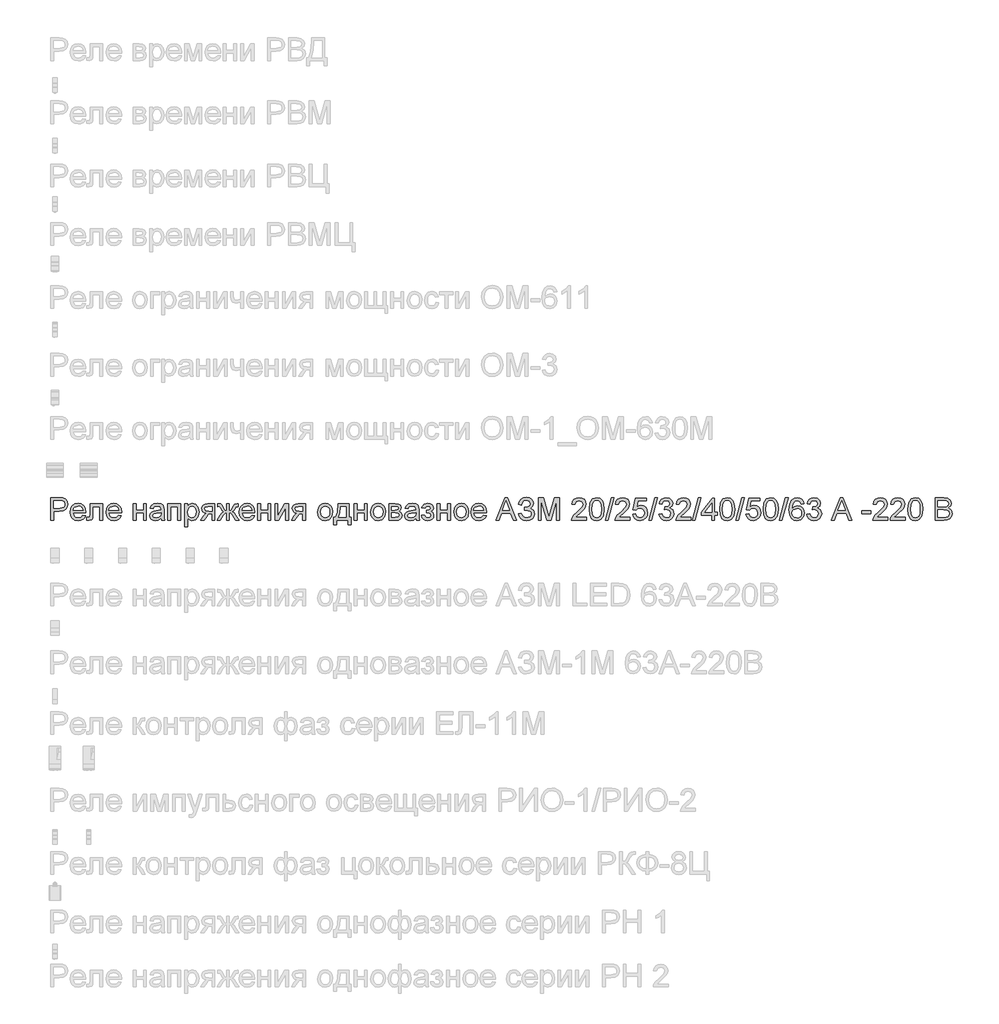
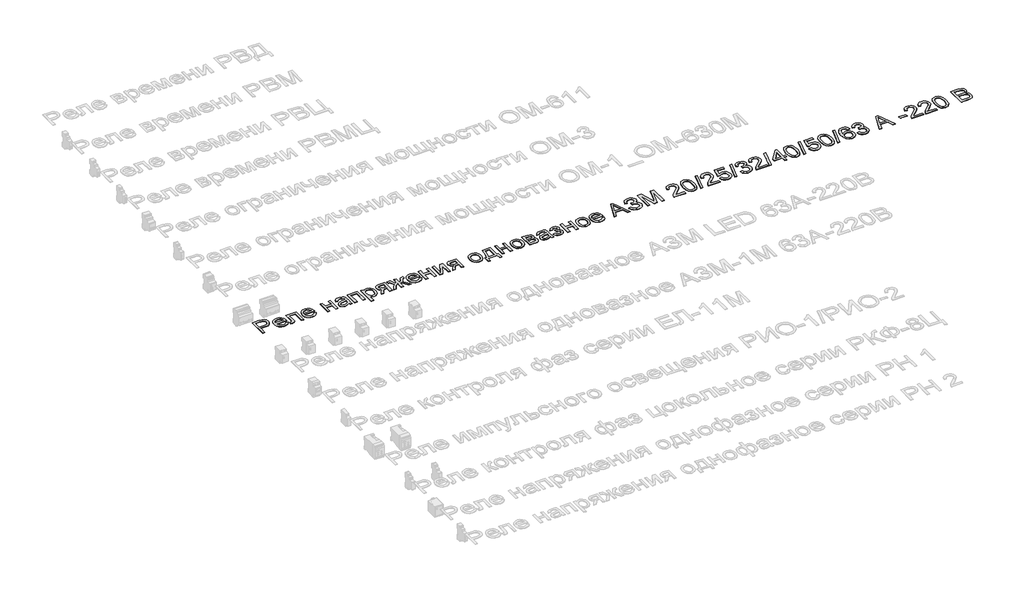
# One storey, part 18 of 34: 1 proxy.
"""IFC4 building model written with IfcOpenShell, lengths in millimetres."""

from ifc_helpers import new_model, si_unit, frame, origin, place, context, project, spatial, polyline, outline, extrude, element, save

model = new_model("IFC4")

# Units and contexts
model_context = context("Model", 3, world=origin())
ifc_project = project(units=[si_unit("LENGTHUNIT", "METRE", prefix="MILLI")], contexts=[model_context])

# Site, building, storey
site = spatial("IfcSite", under=ifc_project)
building = spatial("IfcBuilding", under=site)
storey = spatial("IfcBuildingStorey", under=building, Name="Этаж 01", Elevation=0.0)

# Proxy
placement = place(None, origin())
element("IfcBuildingElementProxy", 1, Name="Надпись на модели 1", ObjectType="Надпись на модели 1", at=placement, inside=storey, context=model_context, shape_type="SweptSolid", body=[
    extrude(outline(polyline([(-19039.0125911, 12276.235284), (-19039.0125911, 12376.6915941), (-19001.7829332, 12376.6915941), (-18986.7733478, 12375.735101), (-18974.5719283, 12371.0384742), (-18966.6624654, 12361.3263895), (-18963.6703585, 12347.6289165), (-18965.6906438, 12335.7892476), (-18971.7514996, 12325.9238788), (-18983.0853308, 12319.2652147), (-19000.9245418, 12317.04566), (-19026.4555523, 12317.04566), (-19026.4555523, 12276.235284), (-19039.0125911, 12276.235284)]), holes=[polyline([(-19026.4555523, 12329.6026988), (-19000.1887779, 12329.6026988), (-18981.6965762, 12334.2134864), (-18977.594692, 12339.7623732), (-18976.2273972, 12347.1874581), (-18979.4524961, 12357.5862559), (-18987.9260447, 12363.2761641), (-19000.4830834, 12364.1345554), (-19026.4555523, 12364.1345554), (-19026.4555523, 12329.6026988)])]), frame((0.0, 0.0, 40.0), z_axis=(0.0, 0.0, 1.0), x_axis=(1.0, 0.0, 0.0)), (0.0, 0.0, 1.0), 2.0),
    extrude(outline(polyline([(-18896.3234279, 12298.2101018), (-18884.0116438, 12296.640472), (-18888.4476875, 12287.3637143), (-18895.5263502, 12280.4291387), (-18905.0882164, 12276.1065253), (-18916.9738705, 12274.6656541), (-18931.7075445, 12277.1519233), (-18943.0444413, 12284.6107308), (-18950.2733225, 12296.5576985), (-18952.6829495, 12312.5084487), (-18950.248797, 12328.9956935), (-18942.9463394, 12341.3258717), (-18931.7627268, 12349.0146054), (-18917.6851091, 12351.5775166), (-18904.0458841, 12349.0207367), (-18893.14738, 12341.3503971), (-18886.0012722, 12329.0447444), (-18883.6192363, 12312.5820251), (-18883.6928127, 12309.1975108), (-18940.1259108, 12309.1975108), (-18937.9523413, 12299.7981258), (-18932.9031609, 12292.8880756), (-18925.6160317, 12288.6390386), (-18916.7286159, 12287.2226929), (-18904.4168318, 12289.8469178), (-18896.3234279, 12298.2101018)]), holes=[polyline([(-18940.1259108, 12321.7545495), (-18896.1762751, 12321.7545495), (-18901.2039957, 12333.1343659), (-18908.5248474, 12337.5489499), (-18917.73416, 12339.0204778), (-18933.1974665, 12334.323851), (-18938.0627059, 12328.8332123), (-18940.1259108, 12321.7545495)])]), frame((0.0, 0.0, 40.0), z_axis=(0.0, 0.0, 1.0), x_axis=(1.0, 0.0, 0.0)), (0.0, 0.0, 1.0), 2.0),
    extrude(outline(polyline([(-18864.7836782, 12350.0078868), (-18808.2770037, 12350.0078868), (-18808.2770037, 12276.3088604), (-18820.8340425, 12276.3088604), (-18820.8340425, 12337.450848), (-18852.2266394, 12337.450848), (-18852.2266394, 12302.2568038), (-18853.072768, 12286.0209451), (-18857.7203439, 12279.1660772), (-18868.7077528, 12276.235284), (-18878.9103468, 12276.8729461), (-18878.9103468, 12288.7923228), (-18873.294015, 12288.7923228), (-18867.6163695, 12289.564875), (-18865.3477639, 12292.0174216), (-18864.7836782, 12302.9680423), (-18864.7836782, 12350.0078868)])), frame((0.0, 0.0, 40.0), z_axis=(0.0, 0.0, 1.0), x_axis=(1.0, 0.0, 0.0)), (0.0, 0.0, 1.0), 2.0),
    extrude(outline(polyline([(-18737.7908134, 12298.2101018), (-18725.4790293, 12296.640472), (-18729.915073, 12287.3637143), (-18736.9937358, 12280.4291387), (-18746.555602, 12276.1065253), (-18758.4412561, 12274.6656541), (-18773.17493, 12277.1519233), (-18784.5118268, 12284.6107308), (-18791.740708, 12296.5576985), (-18794.1503351, 12312.5084487), (-18791.7161826, 12328.9956935), (-18784.4137249, 12341.3258717), (-18773.2301123, 12349.0146054), (-18759.1524946, 12351.5775166), (-18745.5132696, 12349.0207367), (-18734.6147655, 12341.3503971), (-18727.4686578, 12329.0447444), (-18725.0866219, 12312.5820251), (-18725.1601983, 12309.1975108), (-18781.5932963, 12309.1975108), (-18779.4197269, 12299.7981258), (-18774.3705465, 12292.8880756), (-18767.0834173, 12288.6390386), (-18758.1960014, 12287.2226929), (-18745.8842173, 12289.8469178), (-18737.7908134, 12298.2101018)]), holes=[polyline([(-18781.5932963, 12321.7545495), (-18737.6436606, 12321.7545495), (-18742.6713812, 12333.1343659), (-18749.9922329, 12337.5489499), (-18759.2015455, 12339.0204778), (-18774.6648521, 12334.323851), (-18779.5300915, 12328.8332123), (-18781.5932963, 12321.7545495)])]), frame((0.0, 0.0, 40.0), z_axis=(0.0, 0.0, 1.0), x_axis=(1.0, 0.0, 0.0)), (0.0, 0.0, 1.0), 2.0),
    extrude(outline(polyline([(-18673.2888369, 12350.0078868), (-18660.7317982, 12350.0078868), (-18660.7317982, 12321.7545495), (-18627.7695714, 12321.7545495), (-18627.7695714, 12350.0078868), (-18615.2125326, 12350.0078868), (-18615.2125326, 12276.235284), (-18627.7695714, 12276.235284), (-18627.7695714, 12309.1975108), (-18660.7317982, 12309.1975108), (-18660.7317982, 12276.235284), (-18673.2888369, 12276.235284), (-18673.2888369, 12350.0078868)])), frame((0.0, 0.0, 40.0), z_axis=(0.0, 0.0, 1.0), x_axis=(1.0, 0.0, 0.0)), (0.0, 0.0, 1.0), 2.0),
    extrude(outline(polyline([(-18549.2880791, 12285.6530631), (-18561.4649731, 12277.1427262), (-18574.9171914, 12274.6656541), (-18585.4110253, 12276.1555762), (-18593.1518757, 12280.6253425), (-18597.9251445, 12287.4127653), (-18599.5162342, 12295.8556571), (-18597.1127385, 12305.7884709), (-18590.7974309, 12312.998958), (-18582.0050512, 12317.1192364), (-18571.1402696, 12319.0076973), (-18549.3616555, 12323.3241794), (-18549.2880791, 12326.1200825), (-18552.7461699, 12335.3907088), (-18566.6275838, 12339.0204778), (-18579.3317754, 12336.6047194), (-18585.3895656, 12328.0330689), (-18597.9466043, 12329.6026988), (-18592.5142135, 12341.8654319), (-18581.5758555, 12349.0513936), (-18565.008903, 12351.5775166), (-18549.7908512, 12349.3456992), (-18541.1946752, 12343.7416301), (-18537.344177, 12335.2190306), (-18536.7310403, 12324.2316216), (-18536.7310403, 12308.6088996), (-18536.0933782, 12286.7934973), (-18533.5917806, 12276.235284), (-18546.1488194, 12276.235284), (-18549.2880791, 12285.6530631)]), holes=[polyline([(-18549.2880791, 12310.7671406), (-18569.5461143, 12306.9166424), (-18580.3495822, 12304.8810287), (-18585.2424128, 12301.5700907), (-18586.9591954, 12296.7385739), (-18583.2190618, 12289.9450197), (-18572.2439156, 12287.2226929), (-18559.539724, 12290.2270625), (-18551.3482183, 12297.4988633), (-18549.3616555, 12307.210948), (-18549.2880791, 12310.7671406)])]), frame((0.0, 0.0, 40.0), z_axis=(0.0, 0.0, 1.0), x_axis=(1.0, 0.0, 0.0)), (0.0, 0.0, 1.0), 2.0),
    extrude(outline(polyline([(-18519.465112, 12350.0078868), (-18462.9584376, 12350.0078868), (-18462.9584376, 12276.235284), (-18475.5154763, 12276.235284), (-18475.5154763, 12337.450848), (-18506.9080733, 12337.450848), (-18506.9080733, 12276.235284), (-18519.465112, 12276.235284), (-18519.465112, 12350.0078868)])), frame((0.0, 0.0, 40.0), z_axis=(0.0, 0.0, 1.0), x_axis=(1.0, 0.0, 0.0)), (0.0, 0.0, 1.0), 2.0),
    extrude(outline(polyline([(-18444.1228794, 12247.9819468), (-18444.1228794, 12350.0078868), (-18431.5658406, 12350.0078868), (-18431.5658406, 12337.6961027), (-18422.8838256, 12348.1071631), (-18411.1606526, 12351.5775166), (-18395.243625, 12346.7214743), (-18384.8448273, 12333.036264), (-18381.3376856, 12313.6856711), (-18385.2985484, 12293.3417968), (-18396.8009921, 12279.4849083), (-18412.6812316, 12274.6656541), (-18423.6073268, 12277.890753), (-18431.5658406, 12286.0454705), (-18431.5658406, 12247.9819468), (-18444.1228794, 12247.9819468)]), holes=[polyline([(-18431.5658406, 12312.5329742), (-18430.2077429, 12301.2757851), (-18426.1334498, 12293.4031104), (-18420.1216449, 12288.7677973), (-18412.9510117, 12287.2226929), (-18405.6638825, 12288.8229796), (-18399.4987934, 12293.6238396), (-18395.2957416, 12301.7846886), (-18393.8947243, 12313.4649419), (-18395.2620191, 12324.6608173), (-18399.3639033, 12332.6438566), (-18405.3665112, 12337.4263225), (-18412.4359769, 12339.0204778), (-18419.5330337, 12337.325155), (-18425.7655679, 12332.2391864), (-18430.1157724, 12323.9219876), (-18431.5658406, 12312.5329742)])]), frame((0.0, 0.0, 40.0), z_axis=(0.0, 0.0, 1.0), x_axis=(1.0, 0.0, 0.0)), (0.0, 0.0, 1.0), 2.0),
    extrude(outline(polyline([(-18310.7043425, 12350.0078868), (-18310.7043425, 12276.235284), (-18323.2613813, 12276.235284), (-18323.2613813, 12304.4886212), (-18330.1039864, 12304.4886212), (-18339.4236636, 12302.8944659), (-18348.1792551, 12292.1768371), (-18358.1856453, 12276.235284), (-18372.7047214, 12276.235284), (-18360.0986317, 12296.3952173), (-18349.4055284, 12306.843066), (-18357.9894416, 12309.4734223), (-18364.0227063, 12314.470486), (-18368.7806468, 12328.6952565), (-18367.1558347, 12337.2914325), (-18362.2813982, 12344.0972494), (-18354.3290158, 12348.5302274), (-18343.4703655, 12350.0078868), (-18310.7043425, 12350.0078868)]), holes=[polyline([(-18323.2613813, 12337.450848), (-18339.816071, 12337.450848), (-18353.2192384, 12334.5445802), (-18356.223608, 12327.7387633), (-18351.7967614, 12319.6330967), (-18336.1127256, 12317.04566), (-18323.2613813, 12317.04566), (-18323.2613813, 12337.450848)])]), frame((0.0, 0.0, 40.0), z_axis=(0.0, 0.0, 1.0), x_axis=(1.0, 0.0, 0.0)), (0.0, 0.0, 1.0), 2.0),
    extrude(outline(polyline([(-18246.3495188, 12350.0078868), (-18246.3495188, 12318.6152898), (-18239.0286671, 12321.2027265), (-18232.1002229, 12334.6304194), (-18223.8351407, 12347.5062892), (-18212.0874423, 12350.0078868), (-18207.1087727, 12350.0078868), (-18207.1087727, 12337.3772716), (-18210.5668634, 12337.450848), (-18217.0415865, 12336.1509983), (-18221.5297469, 12328.0085434), (-18226.7414085, 12319.0812737), (-18234.1848875, 12314.5440624), (-18225.9749876, 12309.6573633), (-18217.9735542, 12299.3627988), (-18203.969513, 12276.235284), (-18218.3659617, 12276.235284), (-18232.1492738, 12299.0439677), (-18239.1758199, 12308.5230604), (-18246.3495188, 12310.7671406), (-18246.3495188, 12276.235284), (-18258.9065576, 12276.235284), (-18258.9065576, 12310.7671406), (-18266.055731, 12308.5721114), (-18273.1313281, 12299.0930186), (-18286.9146401, 12276.235284), (-18301.2865634, 12276.235284), (-18287.3315731, 12299.3627988), (-18279.268826, 12309.6573633), (-18271.0221379, 12314.5440624), (-18278.9193381, 12319.5472576), (-18285.6883668, 12332.4231274), (-18288.9993048, 12336.6660331), (-18294.4194328, 12337.5244244), (-18298.1473037, 12337.450848), (-18298.1473037, 12350.0078868), (-18296.2588428, 12350.0078868), (-18285.2469084, 12349.2230718), (-18279.5324748, 12345.8876084), (-18273.1313281, 12334.6304194), (-18266.2764602, 12321.2885657), (-18258.9065576, 12318.6152898), (-18258.9065576, 12350.0078868), (-18246.3495188, 12350.0078868)])), frame((0.0, 0.0, 40.0), z_axis=(0.0, 0.0, 1.0), x_axis=(1.0, 0.0, 0.0)), (0.0, 0.0, 1.0), 2.0),
    extrude(outline(polyline([(-18146.0403615, 12298.2101018), (-18133.7285773, 12296.640472), (-18138.1646211, 12287.3637143), (-18145.2432838, 12280.4291387), (-18154.80515, 12276.1065253), (-18166.6908041, 12274.6656541), (-18181.424478, 12277.1519233), (-18192.7613748, 12284.6107308), (-18199.990256, 12296.5576985), (-18202.3998831, 12312.5084487), (-18199.9657306, 12328.9956935), (-18192.663273, 12341.3258717), (-18181.4796603, 12349.0146054), (-18167.4020426, 12351.5775166), (-18153.7628177, 12349.0207367), (-18142.8643136, 12341.3503971), (-18135.7182058, 12329.0447444), (-18133.3361699, 12312.5820251), (-18133.4097463, 12309.1975108), (-18189.8428443, 12309.1975108), (-18187.6692749, 12299.7981258), (-18182.6200945, 12292.8880756), (-18175.3329653, 12288.6390386), (-18166.4455495, 12287.2226929), (-18154.1337653, 12289.8469178), (-18146.0403615, 12298.2101018)]), holes=[polyline([(-18189.8428443, 12321.7545495), (-18145.8932087, 12321.7545495), (-18150.9209293, 12333.1343659), (-18158.241781, 12337.5489499), (-18167.4510936, 12339.0204778), (-18182.9144001, 12334.323851), (-18187.7796395, 12328.8332123), (-18189.8428443, 12321.7545495)])]), frame((0.0, 0.0, 40.0), z_axis=(0.0, 0.0, 1.0), x_axis=(1.0, 0.0, 0.0)), (0.0, 0.0, 1.0), 2.0),
    extrude(outline(polyline([(-18120.7791311, 12350.0078868), (-18108.2220923, 12350.0078868), (-18108.2220923, 12321.7545495), (-18075.2598656, 12321.7545495), (-18075.2598656, 12350.0078868), (-18062.7028268, 12350.0078868), (-18062.7028268, 12276.235284), (-18075.2598656, 12276.235284), (-18075.2598656, 12309.1975108), (-18108.2220923, 12309.1975108), (-18108.2220923, 12276.235284), (-18120.7791311, 12276.235284), (-18120.7791311, 12350.0078868)])), frame((0.0, 0.0, 40.0), z_axis=(0.0, 0.0, 1.0), x_axis=(1.0, 0.0, 0.0)), (0.0, 0.0, 1.0), 2.0),
    extrude(outline(polyline([(-18043.8672687, 12350.0078868), (-18031.3102299, 12350.0078868), (-18031.3102299, 12293.746467), (-18000.4571932, 12350.0078868), (-17984.2213345, 12350.0078868), (-17984.2213345, 12276.235284), (-17996.7783733, 12276.235284), (-17996.7783733, 12332.1533473), (-18027.4352062, 12276.235284), (-18043.8672687, 12276.235284), (-18043.8672687, 12350.0078868)])), frame((0.0, 0.0, 40.0), z_axis=(0.0, 0.0, 1.0), x_axis=(1.0, 0.0, 0.0)), (0.0, 0.0, 1.0), 2.0),
    extrude(outline(polyline([(-17908.8791019, 12350.0078868), (-17908.8791019, 12276.235284), (-17921.4361407, 12276.235284), (-17921.4361407, 12304.4886212), (-17928.2787458, 12304.4886212), (-17937.598423, 12302.8944659), (-17946.3540145, 12292.1768371), (-17956.3604047, 12276.235284), (-17970.8794808, 12276.235284), (-17958.2733911, 12296.3952173), (-17947.5802878, 12306.843066), (-17956.164201, 12309.4734223), (-17962.1974657, 12314.470486), (-17966.9554062, 12328.6952565), (-17965.3305941, 12337.2914325), (-17960.4561576, 12344.0972494), (-17952.5037752, 12348.5302274), (-17941.6451249, 12350.0078868), (-17908.8791019, 12350.0078868)]), holes=[polyline([(-17921.4361407, 12337.450848), (-17937.9908304, 12337.450848), (-17951.3939978, 12334.5445802), (-17954.3983674, 12327.7387633), (-17949.9715208, 12319.6330967), (-17934.287485, 12317.04566), (-17921.4361407, 12317.04566), (-17921.4361407, 12337.450848)])]), frame((0.0, 0.0, 40.0), z_axis=(0.0, 0.0, 1.0), x_axis=(1.0, 0.0, 0.0)), (0.0, 0.0, 1.0), 2.0),
    extrude(outline(polyline([(-17853.9420573, 12313.1215854), (-17851.2258619, 12330.9086798), (-17843.0772757, 12343.4105363), (-17833.0095718, 12349.5357715), (-17820.955305, 12351.5775166), (-17807.7636698, 12349.0912475), (-17797.2269164, 12341.63244), (-17790.3199319, 12329.7897054), (-17788.0176037, 12314.151655), (-17792.0888312, 12291.8089551), (-17803.9468941, 12279.1660772), (-17820.955305, 12274.6656541), (-17834.3063558, 12277.1427262), (-17844.8308465, 12284.5739426), (-17851.6642546, 12296.6649975), (-17853.9420573, 12313.1215854)]), holes=[polyline([(-17841.3850185, 12313.1461108), (-17839.9318846, 12301.7816229), (-17835.572483, 12293.6851533), (-17829.0119207, 12288.838308), (-17820.955305, 12287.2226929), (-17812.9354776, 12288.8475051), (-17806.387178, 12293.7219415), (-17802.0277764, 12301.92571), (-17800.5746425, 12313.5385183), (-17802.0369734, 12324.5719125), (-17806.4239662, 12332.5580175), (-17812.9814628, 12337.4048627), (-17820.955305, 12339.0204778), (-17829.0119207, 12337.4109941), (-17835.572483, 12332.5825429), (-17839.9318846, 12324.5044674), (-17841.3850185, 12313.1461108)])]), frame((0.0, 0.0, 40.0), z_axis=(0.0, 0.0, 1.0), x_axis=(1.0, 0.0, 0.0)), (0.0, 0.0, 1.0), 2.0),
    extrude(outline(polyline([(-17762.9035262, 12350.0078868), (-17715.8146308, 12350.0078868), (-17715.8146308, 12288.7923228), (-17706.3968517, 12288.7923228), (-17706.3968517, 12255.830096), (-17718.9538905, 12255.830096), (-17718.9538905, 12276.235284), (-17770.7516754, 12276.235284), (-17770.7516754, 12255.830096), (-17783.3087142, 12255.830096), (-17783.3087142, 12288.7923228), (-17775.460565, 12288.7923228), (-17765.760743, 12312.7414406), (-17762.9035262, 12350.0078868)]), holes=[polyline([(-17751.9161173, 12337.450848), (-17754.8591732, 12308.8418915), (-17761.3338964, 12288.7923228), (-17728.3716696, 12288.7923228), (-17728.3716696, 12337.450848), (-17751.9161173, 12337.450848)])]), frame((0.0, 0.0, 40.0), z_axis=(0.0, 0.0, 1.0), x_axis=(1.0, 0.0, 0.0)), (0.0, 0.0, 1.0), 2.0),
    extrude(outline(polyline([(-17692.2701831, 12350.0078868), (-17679.7131444, 12350.0078868), (-17679.7131444, 12321.7545495), (-17646.7509176, 12321.7545495), (-17646.7509176, 12350.0078868), (-17634.1938788, 12350.0078868), (-17634.1938788, 12276.235284), (-17646.7509176, 12276.235284), (-17646.7509176, 12309.1975108), (-17679.7131444, 12309.1975108), (-17679.7131444, 12276.235284), (-17692.2701831, 12276.235284), (-17692.2701831, 12350.0078868)])), frame((0.0, 0.0, 40.0), z_axis=(0.0, 0.0, 1.0), x_axis=(1.0, 0.0, 0.0)), (0.0, 0.0, 1.0), 2.0),
    extrude(outline(polyline([(-17618.4975804, 12313.1215854), (-17615.781385, 12330.9086798), (-17607.6327988, 12343.4105363), (-17597.5650948, 12349.5357715), (-17585.5108281, 12351.5775166), (-17572.3191929, 12349.0912475), (-17561.7824394, 12341.63244), (-17554.875455, 12329.7897054), (-17552.5731268, 12314.151655), (-17556.6443542, 12291.8089551), (-17568.5024172, 12279.1660772), (-17585.5108281, 12274.6656541), (-17598.8618789, 12277.1427262), (-17609.3863696, 12284.5739426), (-17616.2197777, 12296.6649975), (-17618.4975804, 12313.1215854)]), holes=[polyline([(-17605.9405416, 12313.1461108), (-17604.4874077, 12301.7816229), (-17600.1280061, 12293.6851533), (-17593.5674438, 12288.838308), (-17585.5108281, 12287.2226929), (-17577.4910006, 12288.8475051), (-17570.9427011, 12293.7219415), (-17566.5832995, 12301.92571), (-17565.1301656, 12313.5385183), (-17566.5924965, 12324.5719125), (-17570.9794893, 12332.5580175), (-17577.5369859, 12337.4048627), (-17585.5108281, 12339.0204778), (-17593.5674438, 12337.4109941), (-17600.1280061, 12332.5825429), (-17604.4874077, 12324.5044674), (-17605.9405416, 12313.1461108)])]), frame((0.0, 0.0, 40.0), z_axis=(0.0, 0.0, 1.0), x_axis=(1.0, 0.0, 0.0)), (0.0, 0.0, 1.0), 2.0),
    extrude(outline(polyline([(-17538.4464582, 12350.0078868), (-17510.7817322, 12350.0078868), (-17495.6127312, 12348.3278923), (-17487.077869, 12342.1720003), (-17483.5094136, 12331.4421087), (-17485.6676546, 12322.7233055), (-17492.1669032, 12316.5060997), (-17483.7301428, 12309.7002828), (-17480.3701539, 12297.8667453), (-17482.4977381, 12288.2956821), (-17487.5561156, 12281.5573102), (-17495.5636803, 12277.5657905), (-17506.5388265, 12276.235284), (-17538.4464582, 12276.235284), (-17538.4464582, 12350.0078868)]), holes=[polyline([(-17525.8894194, 12321.7545495), (-17513.4795335, 12321.7545495), (-17503.2401513, 12322.3922117), (-17498.2614816, 12324.9428602), (-17496.0664524, 12329.5536478), (-17499.9169506, 12335.7095399), (-17513.087126, 12337.450848), (-17525.8894194, 12337.450848), (-17525.8894194, 12321.7545495)]), polyline([(-17525.8894194, 12288.7923228), (-17510.4874266, 12288.7923228), (-17496.8267418, 12291.0609284), (-17492.9271927, 12298.8968149), (-17495.073171, 12304.9423424), (-17500.6649773, 12308.4617468), (-17511.7136999, 12309.1975108), (-17525.8894194, 12309.1975108), (-17525.8894194, 12288.7923228)])]), frame((0.0, 0.0, 40.0), z_axis=(0.0, 0.0, 1.0), x_axis=(1.0, 0.0, 0.0)), (0.0, 0.0, 1.0), 2.0),
    extrude(outline(polyline([(-17417.5849601, 12285.6530631), (-17429.7618541, 12277.1427262), (-17443.2140724, 12274.6656541), (-17453.7079063, 12276.1555762), (-17461.4487566, 12280.6253425), (-17466.2220255, 12287.4127653), (-17467.8131151, 12295.8556571), (-17465.4096194, 12305.7884709), (-17459.0943119, 12312.998958), (-17450.3019322, 12317.1192364), (-17439.4371506, 12319.0076973), (-17417.6585365, 12323.3241794), (-17417.5849601, 12326.1200825), (-17421.0430508, 12335.3907088), (-17434.9244648, 12339.0204778), (-17447.6286563, 12336.6047194), (-17453.6864465, 12328.0330689), (-17466.2434853, 12329.6026988), (-17460.8110945, 12341.8654319), (-17449.8727365, 12349.0513936), (-17433.305784, 12351.5775166), (-17418.0877321, 12349.3456992), (-17409.4915562, 12343.7416301), (-17405.641058, 12335.2190306), (-17405.0279213, 12324.2316216), (-17405.0279213, 12308.6088996), (-17404.3902592, 12286.7934973), (-17401.8886616, 12276.235284), (-17414.4457004, 12276.235284), (-17417.5849601, 12285.6530631)]), holes=[polyline([(-17417.5849601, 12310.7671406), (-17437.8429953, 12306.9166424), (-17448.6464632, 12304.8810287), (-17453.5392937, 12301.5700907), (-17455.2560764, 12296.7385739), (-17451.5159428, 12289.9450197), (-17440.5407966, 12287.2226929), (-17427.836605, 12290.2270625), (-17419.6450992, 12297.4988633), (-17417.6585365, 12307.210948), (-17417.5849601, 12310.7671406)])]), frame((0.0, 0.0, 40.0), z_axis=(0.0, 0.0, 1.0), x_axis=(1.0, 0.0, 0.0)), (0.0, 0.0, 1.0), 2.0),
    extrude(outline(polyline([(-17370.4960647, 12309.1975108), (-17370.4960647, 12321.7545495), (-17360.5877763, 12322.2450589), (-17355.5845811, 12324.857021), (-17353.2301364, 12330.3139373), (-17356.3816588, 12336.6537703), (-17364.5118509, 12339.0204778), (-17372.9118231, 12336.6660331), (-17378.3442139, 12329.6026988), (-17392.4708825, 12331.1723286), (-17383.028578, 12346.4762196), (-17365.7871751, 12351.5775166), (-17355.2902756, 12350.0232152), (-17347.3440245, 12345.3603109), (-17342.3408293, 12338.5391656), (-17340.6730976, 12330.510141), (-17343.0459365, 12322.7110427), (-17350.1644531, 12316.677778), (-17341.8625827, 12308.8541542), (-17339.1034678, 12297.5969652), (-17340.8539729, 12288.3539301), (-17346.1054884, 12281.0300127), (-17354.5023949, 12276.2567438), (-17365.6890733, 12274.6656541), (-17376.630497, 12276.1371821), (-17385.002878, 12280.5517661), (-17390.8062165, 12287.909406), (-17394.0405124, 12298.2101018), (-17379.9138438, 12299.7797317), (-17374.248461, 12290.5091054), (-17364.4873254, 12287.2226929), (-17355.314801, 12290.3742153), (-17351.6605065, 12298.430831), (-17353.9291122, 12305.0281815), (-17358.760629, 12308.5598486), (-17368.0435181, 12309.2710872), (-17370.4960647, 12309.1975108)])), frame((0.0, 0.0, 40.0), z_axis=(0.0, 0.0, 1.0), x_axis=(1.0, 0.0, 0.0)), (0.0, 0.0, 1.0), 2.0),
    extrude(outline(polyline([(-17323.4071693, 12350.0078868), (-17310.8501305, 12350.0078868), (-17310.8501305, 12321.7545495), (-17277.8879038, 12321.7545495), (-17277.8879038, 12350.0078868), (-17265.330865, 12350.0078868), (-17265.330865, 12276.235284), (-17277.8879038, 12276.235284), (-17277.8879038, 12309.1975108), (-17310.8501305, 12309.1975108), (-17310.8501305, 12276.235284), (-17323.4071693, 12276.235284), (-17323.4071693, 12350.0078868)])), frame((0.0, 0.0, 40.0), z_axis=(0.0, 0.0, 1.0), x_axis=(1.0, 0.0, 0.0)), (0.0, 0.0, 1.0), 2.0),
    extrude(outline(polyline([(-17249.6345665, 12313.1215854), (-17246.9183711, 12330.9086798), (-17238.7697849, 12343.4105363), (-17228.702081, 12349.5357715), (-17216.6478143, 12351.5775166), (-17203.4561791, 12349.0912475), (-17192.9194256, 12341.63244), (-17186.0124412, 12329.7897054), (-17183.710113, 12314.151655), (-17187.7813404, 12291.8089551), (-17199.6394034, 12279.1660772), (-17216.6478143, 12274.6656541), (-17229.998865, 12277.1427262), (-17240.5233558, 12284.5739426), (-17247.3567639, 12296.6649975), (-17249.6345665, 12313.1215854)]), holes=[polyline([(-17237.0775278, 12313.1461108), (-17235.6243939, 12301.7816229), (-17231.2649922, 12293.6851533), (-17224.70443, 12288.838308), (-17216.6478143, 12287.2226929), (-17208.6279868, 12288.8475051), (-17202.0796873, 12293.7219415), (-17197.7202857, 12301.92571), (-17196.2671518, 12313.5385183), (-17197.7294827, 12324.5719125), (-17202.1164755, 12332.5580175), (-17208.6739721, 12337.4048627), (-17216.6478143, 12339.0204778), (-17224.70443, 12337.4109941), (-17231.2649922, 12332.5825429), (-17235.6243939, 12324.5044674), (-17237.0775278, 12313.1461108)])]), frame((0.0, 0.0, 40.0), z_axis=(0.0, 0.0, 1.0), x_axis=(1.0, 0.0, 0.0)), (0.0, 0.0, 1.0), 2.0),
    extrude(outline(polyline([(-17117.9328123, 12298.2101018), (-17105.6210282, 12296.640472), (-17110.0570719, 12287.3637143), (-17117.1357346, 12280.4291387), (-17126.6976008, 12276.1065253), (-17138.5832549, 12274.6656541), (-17153.3169288, 12277.1519233), (-17164.6538257, 12284.6107308), (-17171.8827069, 12296.5576985), (-17174.2923339, 12312.5084487), (-17171.8581814, 12328.9956935), (-17164.5557238, 12341.3258717), (-17153.3721111, 12349.0146054), (-17139.2944935, 12351.5775166), (-17125.6552685, 12349.0207367), (-17114.7567644, 12341.3503971), (-17107.6106566, 12329.0447444), (-17105.2286207, 12312.5820251), (-17105.3021971, 12309.1975108), (-17161.7352952, 12309.1975108), (-17159.5617257, 12299.7981258), (-17154.5125453, 12292.8880756), (-17147.2254161, 12288.6390386), (-17138.3380003, 12287.2226929), (-17126.0262162, 12289.8469178), (-17117.9328123, 12298.2101018)]), holes=[polyline([(-17161.7352952, 12321.7545495), (-17117.7856595, 12321.7545495), (-17122.8133801, 12333.1343659), (-17130.1342318, 12337.5489499), (-17139.3435444, 12339.0204778), (-17154.8068509, 12334.323851), (-17159.6720903, 12328.8332123), (-17161.7352952, 12321.7545495)])]), frame((0.0, 0.0, 40.0), z_axis=(0.0, 0.0, 1.0), x_axis=(1.0, 0.0, 0.0)), (0.0, 0.0, 1.0), 2.0),
    extrude(outline(polyline([(-17063.5598534, 12276.235284), (-17023.4607159, 12376.6915941), (-17012.7676126, 12376.6915941), (-16972.6684751, 12276.235284), (-16985.9367524, 12276.235284), (-16997.4391961, 12307.6278809), (-17038.8136578, 12307.6278809), (-17050.2915761, 12276.235284), (-17063.5598534, 12276.235284)]), holes=[polyline([(-17034.2028702, 12320.1849197), (-17002.0254583, 12320.1849197), (-17011.0753554, 12344.8820643), (-17018.1141642, 12364.1345554), (-17024.3681582, 12347.0403053), (-17034.2028702, 12320.1849197)])]), frame((0.0, 0.0, 40.0), z_axis=(0.0, 0.0, 1.0), x_axis=(1.0, 0.0, 0.0)), (0.0, 0.0, 1.0), 2.0),
    extrude(outline(polyline([(-16963.9619345, 12304.4886212), (-16951.4048958, 12307.6278809), (-16943.6916366, 12294.0285098), (-16936.4045074, 12288.9241471), (-16927.0756332, 12287.2226929), (-16910.4105788, 12292.3362526), (-16905.839645, 12297.9801756), (-16904.3160004, 12304.684825), (-16905.9806664, 12311.7083054), (-16910.9746645, 12317.1314991), (-16929.1112469, 12321.7545495), (-16935.7085973, 12321.7545495), (-16935.7085973, 12334.3115883), (-16921.4960896, 12335.3293952), (-16912.8018118, 12340.528794), (-16909.0248899, 12350.0324122), (-16914.0526105, 12361.0320839), (-16927.6642444, 12365.7041852), (-16940.4788005, 12362.1112044), (-16947.811915, 12352.5830607), (-16949.8352659, 12343.7293674), (-16962.3923047, 12346.8686271), (-16958.4912227, 12360.6028882), (-16951.4232899, 12370.4130748), (-16941.1885062, 12376.2991867), (-16927.7868717, 12378.261224), (-16914.8588852, 12376.2225446), (-16904.9168743, 12370.1065064), (-16898.580107, 12361.2620101), (-16896.4678512, 12351.0379563), (-16899.7542637, 12338.6096763), (-16909.6135011, 12329.3329186), (-16896.8847841, 12320.6876917), (-16891.7589616, 12305.0527069), (-16894.2176396, 12293.1609215), (-16901.5936736, 12283.3844574), (-16913.0286723, 12276.845355), (-16927.6642444, 12274.6656541), (-16940.3990928, 12276.5295896), (-16950.6936573, 12282.1213959), (-16958.5479379, 12291.4410731), (-16963.9619345, 12304.4886212)])), frame((0.0, 0.0, 40.0), z_axis=(0.0, 0.0, 1.0), x_axis=(1.0, 0.0, 0.0)), (0.0, 0.0, 1.0), 2.0),
    extrude(outline(polyline([(-16874.4930333, 12276.235284), (-16874.4930333, 12376.6915941), (-16852.8860975, 12376.6915941), (-16832.3337567, 12305.8865728), (-16828.1889529, 12291.0977166), (-16823.7007925, 12307.1128461), (-16803.4918083, 12376.6915941), (-16781.8848724, 12376.6915941), (-16781.8848724, 12276.235284), (-16794.4419112, 12276.235284), (-16794.4419112, 12364.1345554), (-16819.678616, 12276.235284), (-16836.6992897, 12276.235284), (-16861.9359946, 12364.1345554), (-16861.9359946, 12276.235284), (-16874.4930333, 12276.235284)])), frame((0.0, 0.0, 40.0), z_axis=(0.0, 0.0, 1.0), x_axis=(1.0, 0.0, 0.0)), (0.0, 0.0, 1.0), 2.0),
    extrude(outline(polyline([(-16661.0233743, 12288.7923228), (-16661.0233743, 12276.235284), (-16726.9478278, 12276.235284), (-16725.5989271, 12284.8927736), (-16717.9715071, 12298.2223646), (-16702.2506832, 12312.7782288), (-16680.5701709, 12333.6984516), (-16675.1500429, 12347.9232221), (-16680.2636026, 12359.4379286), (-16693.617719, 12364.1345554), (-16707.5359212, 12359.5482932), (-16712.8211592, 12346.8686271), (-16725.3781979, 12348.4382569), (-16722.3339744, 12360.5844941), (-16715.7519524, 12369.4565816), (-16705.9754884, 12374.882841), (-16693.3479389, 12376.6915941), (-16680.6284189, 12374.6805059), (-16670.870349, 12368.6472412), (-16664.6623403, 12359.6341323), (-16662.5930041, 12348.6835116), (-16664.8248215, 12336.7763977), (-16672.2437751, 12324.4646136), (-16690.2332047, 12307.2599989), (-16704.6787043, 12295.1812067), (-16710.3440871, 12288.7923228), (-16661.0233743, 12288.7923228)])), frame((0.0, 0.0, 40.0), z_axis=(0.0, 0.0, 1.0), x_axis=(1.0, 0.0, 0.0)), (0.0, 0.0, 1.0), 2.0),
    extrude(outline(polyline([(-16648.4663355, 12325.6540987), (-16644.7752528, 12354.5573608), (-16633.8123693, 12371.2224151), (-16615.5041087, 12376.6915941), (-16600.8378798, 12373.4542326), (-16590.7088622, 12364.1222926), (-16584.8227503, 12349.25986), (-16582.541882, 12325.6540987), (-16586.1961764, 12296.8734639), (-16597.1222717, 12280.1716213), (-16605.3536313, 12276.0421459), (-16615.5041087, 12274.6656541), (-16628.5516568, 12277.0568871), (-16638.4599452, 12284.230586), (-16645.9647379, 12301.2206028), (-16648.4663355, 12325.6540987)]), holes=[polyline([(-16635.9092967, 12325.6786241), (-16634.4377687, 12305.9264267), (-16630.0231848, 12294.4944937), (-16623.4503598, 12289.0406431), (-16615.5041087, 12287.2226929), (-16607.5578576, 12289.0467745), (-16600.9850326, 12294.5190192), (-16596.5704487, 12305.9570835), (-16595.0989207, 12325.6786241), (-16596.5213978, 12344.9862975), (-16600.7888289, 12356.5071353), (-16607.3493912, 12362.2277004), (-16615.6512615, 12364.1345554), (-16623.5116735, 12362.4545609), (-16629.8269811, 12357.4145776), (-16634.3887178, 12345.1763699), (-16635.9092967, 12325.6786241)])]), frame((0.0, 0.0, 40.0), z_axis=(0.0, 0.0, 1.0), x_axis=(1.0, 0.0, 0.0)), (0.0, 0.0, 1.0), 2.0),
    extrude(outline(polyline([(-16577.8329924, 12276.235284), (-16549.5796552, 12376.6915941), (-16538.2488897, 12376.6915941), (-16566.502227, 12276.235284), (-16577.8329924, 12276.235284)])), frame((0.0, 0.0, 40.0), z_axis=(0.0, 0.0, 1.0), x_axis=(1.0, 0.0, 0.0)), (0.0, 0.0, 1.0), 2.0),
    extrude(outline(polyline([(-16467.9589032, 12288.7923228), (-16467.9589032, 12276.235284), (-16533.8833567, 12276.235284), (-16532.5344561, 12284.8927736), (-16524.907036, 12298.2223646), (-16509.1862121, 12312.7782288), (-16487.5056999, 12333.6984516), (-16482.0855718, 12347.9232221), (-16487.1991315, 12359.4379286), (-16500.553248, 12364.1345554), (-16514.4714501, 12359.5482932), (-16519.7566881, 12346.8686271), (-16532.3137269, 12348.4382569), (-16529.2695034, 12360.5844941), (-16522.6874813, 12369.4565816), (-16512.9110173, 12374.882841), (-16500.2834678, 12376.6915941), (-16487.5639478, 12374.6805059), (-16477.8058779, 12368.6472412), (-16471.5978693, 12359.6341323), (-16469.528533, 12348.6835116), (-16471.7603505, 12336.7763977), (-16479.179304, 12324.4646136), (-16497.1687336, 12307.2599989), (-16511.6142333, 12295.1812067), (-16517.279616, 12288.7923228), (-16467.9589032, 12288.7923228)])), frame((0.0, 0.0, 40.0), z_axis=(0.0, 0.0, 1.0), x_axis=(1.0, 0.0, 0.0)), (0.0, 0.0, 1.0), 2.0),
    extrude(outline(polyline([(-16455.4018644, 12302.9189914), (-16442.8448256, 12304.4886212), (-16436.5172553, 12291.5514377), (-16423.3961308, 12287.2226929), (-16414.3952847, 12288.7279434), (-16407.6507814, 12293.2436949), (-16403.4385326, 12300.2487812), (-16402.0344497, 12309.2220362), (-16407.2951622, 12324.1335198), (-16413.9017097, 12328.235404), (-16423.1999271, 12329.6026988), (-16434.2241242, 12327.4199323), (-16441.2751958, 12321.7545495), (-16453.8322346, 12323.3241794), (-16442.8448256, 12375.1219643), (-16394.1863004, 12375.1219643), (-16394.1863004, 12362.5649255), (-16432.6912826, 12362.5649255), (-16438.0623597, 12334.9001995), (-16429.0921704, 12340.344853), (-16419.6927854, 12342.1597375), (-16407.9604155, 12339.909526), (-16398.2207396, 12333.1588914), (-16391.6632431, 12322.8704582), (-16389.4774109, 12310.0068512), (-16391.4455796, 12297.4498124), (-16397.3500856, 12286.7076581), (-16408.6563256, 12277.6761551), (-16423.4451818, 12274.6656541), (-16435.7784257, 12276.6001003), (-16445.6039406, 12282.4034388), (-16452.3392468, 12291.4012192), (-16455.4018644, 12302.9189914)])), frame((0.0, 0.0, 40.0), z_axis=(0.0, 0.0, 1.0), x_axis=(1.0, 0.0, 0.0)), (0.0, 0.0, 1.0), 2.0),
    extrude(outline(polyline([(-16384.7685213, 12276.235284), (-16356.5151841, 12376.6915941), (-16345.1844187, 12376.6915941), (-16373.4377559, 12276.235284), (-16384.7685213, 12276.235284)])), frame((0.0, 0.0, 40.0), z_axis=(0.0, 0.0, 1.0), x_axis=(1.0, 0.0, 0.0)), (0.0, 0.0, 1.0), 2.0),
    extrude(outline(polyline([(-16339.2492558, 12302.9189914), (-16326.692217, 12304.4886212), (-16319.7637728, 12291.2693949), (-16306.8020638, 12287.2226929), (-16298.1936251, 12288.6145131), (-16291.5472238, 12292.7899738), (-16285.881841, 12306.5732859), (-16291.4981728, 12319.5595203), (-16305.7719942, 12324.6976055), (-16314.5766367, 12323.3241794), (-16313.1786851, 12335.8812181), (-16311.1675968, 12335.7340653), (-16296.9183009, 12339.3393089), (-16292.1726232, 12343.9133084), (-16290.5907306, 12350.4248197), (-16295.1769928, 12360.247269), (-16306.9982676, 12364.1345554), (-16318.9666951, 12360.2104808), (-16325.1225872, 12348.4382569), (-16337.679626, 12350.0078868), (-16333.9824119, 12361.2834699), (-16327.4034556, 12369.7018362), (-16318.4026094, 12374.9441547), (-16307.439726, 12376.6915941), (-16292.2952505, 12373.2457661), (-16281.700249, 12363.827987), (-16278.0336918, 12351.1605837), (-16281.516308, 12339.5845636), (-16291.8170039, 12331.2704305), (-16278.1317937, 12322.6865173), (-16273.3248023, 12306.3525567), (-16275.728298, 12294.114349), (-16282.9387851, 12283.8872295), (-16293.8219608, 12276.971048), (-16307.2435222, 12274.6656541), (-16319.3836281, 12276.6338228), (-16329.267391, 12282.5383288), (-16336.1406529, 12291.5698318), (-16339.2492558, 12302.9189914)])), frame((0.0, 0.0, 40.0), z_axis=(0.0, 0.0, 1.0), x_axis=(1.0, 0.0, 0.0)), (0.0, 0.0, 1.0), 2.0),
    extrude(outline(polyline([(-16197.9825697, 12288.7923228), (-16197.9825697, 12276.235284), (-16263.9070232, 12276.235284), (-16262.5581225, 12284.8927736), (-16254.9307025, 12298.2223646), (-16239.2098786, 12312.7782288), (-16217.5293663, 12333.6984516), (-16212.1092383, 12347.9232221), (-16217.222798, 12359.4379286), (-16230.5769144, 12364.1345554), (-16244.4951166, 12359.5482932), (-16249.7803546, 12346.8686271), (-16262.3373933, 12348.4382569), (-16259.2931698, 12360.5844941), (-16252.7111478, 12369.4565816), (-16242.9346838, 12374.882841), (-16230.3071343, 12376.6915941), (-16217.5876143, 12374.6805059), (-16207.8295444, 12368.6472412), (-16201.6215357, 12359.6341323), (-16199.5521995, 12348.6835116), (-16201.7840169, 12336.7763977), (-16209.2029705, 12324.4646136), (-16227.1924001, 12307.2599989), (-16241.6378998, 12295.1812067), (-16247.3032825, 12288.7923228), (-16197.9825697, 12288.7923228)])), frame((0.0, 0.0, 40.0), z_axis=(0.0, 0.0, 1.0), x_axis=(1.0, 0.0, 0.0)), (0.0, 0.0, 1.0), 2.0),
    extrude(outline(polyline([(-16191.7040503, 12276.235284), (-16163.450713, 12376.6915941), (-16152.1199476, 12376.6915941), (-16180.3732848, 12276.235284), (-16191.7040503, 12276.235284)])), frame((0.0, 0.0, 40.0), z_axis=(0.0, 0.0, 1.0), x_axis=(1.0, 0.0, 0.0)), (0.0, 0.0, 1.0), 2.0),
    extrude(outline(polyline([(-16105.3744087, 12276.235284), (-16105.3744087, 12299.7797317), (-16150.8936743, 12299.7797317), (-16150.8936743, 12312.3367705), (-16102.235149, 12375.1219643), (-16092.81737, 12375.1219643), (-16092.81737, 12312.3367705), (-16080.2603312, 12312.3367705), (-16080.2603312, 12299.7797317), (-16092.81737, 12299.7797317), (-16092.81737, 12276.235284), (-16105.3744087, 12276.235284)]), holes=[polyline([(-16105.3744087, 12312.3367705), (-16105.3744087, 12351.1360582), (-16135.4426305, 12312.3367705), (-16105.3744087, 12312.3367705)])]), frame((0.0, 0.0, 40.0), z_axis=(0.0, 0.0, 1.0), x_axis=(1.0, 0.0, 0.0)), (0.0, 0.0, 1.0), 2.0),
    extrude(outline(polyline([(-16069.2729223, 12325.6540987), (-16065.5818396, 12354.5573608), (-16054.6189561, 12371.2224151), (-16036.3106955, 12376.6915941), (-16021.6444666, 12373.4542326), (-16011.515449, 12364.1222926), (-16005.6293371, 12349.25986), (-16003.3484687, 12325.6540987), (-16007.0027632, 12296.8734639), (-16017.9288585, 12280.1716213), (-16026.1602181, 12276.0421459), (-16036.3106955, 12274.6656541), (-16049.3582436, 12277.0568871), (-16059.266532, 12284.230586), (-16066.7713247, 12301.2206028), (-16069.2729223, 12325.6540987)]), holes=[polyline([(-16056.7158835, 12325.6786241), (-16055.2443555, 12305.9264267), (-16050.8297716, 12294.4944937), (-16044.2569466, 12289.0406431), (-16036.3106955, 12287.2226929), (-16028.3644444, 12289.0467745), (-16021.7916194, 12294.5190192), (-16017.3770355, 12305.9570835), (-16015.9055075, 12325.6786241), (-16017.3279846, 12344.9862975), (-16021.5954157, 12356.5071353), (-16028.155978, 12362.2277004), (-16036.4578483, 12364.1345554), (-16044.3182603, 12362.4545609), (-16050.6335679, 12357.4145776), (-16055.1953046, 12345.1763699), (-16056.7158835, 12325.6786241)])]), frame((0.0, 0.0, 40.0), z_axis=(0.0, 0.0, 1.0), x_axis=(1.0, 0.0, 0.0)), (0.0, 0.0, 1.0), 2.0),
    extrude(outline(polyline([(-15998.6395792, 12276.235284), (-15970.386242, 12376.6915941), (-15959.0554765, 12376.6915941), (-15987.3088138, 12276.235284), (-15998.6395792, 12276.235284)])), frame((0.0, 0.0, 40.0), z_axis=(0.0, 0.0, 1.0), x_axis=(1.0, 0.0, 0.0)), (0.0, 0.0, 1.0), 2.0),
    extrude(outline(polyline([(-15953.1203137, 12302.9189914), (-15940.5632749, 12304.4886212), (-15934.2357046, 12291.5514377), (-15921.1145801, 12287.2226929), (-15912.1137339, 12288.7279434), (-15905.3692307, 12293.2436949), (-15901.1569819, 12300.2487812), (-15899.7528989, 12309.2220362), (-15905.0136114, 12324.1335198), (-15911.6201589, 12328.235404), (-15920.9183764, 12329.6026988), (-15931.9425735, 12327.4199323), (-15938.9936451, 12321.7545495), (-15951.5506838, 12323.3241794), (-15940.5632749, 12375.1219643), (-15891.9047497, 12375.1219643), (-15891.9047497, 12362.5649255), (-15930.4097318, 12362.5649255), (-15935.780809, 12334.9001995), (-15926.8106196, 12340.344853), (-15917.4112347, 12342.1597375), (-15905.6788647, 12339.909526), (-15895.9391889, 12333.1588914), (-15889.3816923, 12322.8704582), (-15887.1958601, 12310.0068512), (-15889.1640288, 12297.4498124), (-15895.0685348, 12286.7076581), (-15906.3747748, 12277.6761551), (-15921.163631, 12274.6656541), (-15933.4968749, 12276.6001003), (-15943.3223899, 12282.4034388), (-15950.0576961, 12291.4012192), (-15953.1203137, 12302.9189914)])), frame((0.0, 0.0, 40.0), z_axis=(0.0, 0.0, 1.0), x_axis=(1.0, 0.0, 0.0)), (0.0, 0.0, 1.0), 2.0),
    extrude(outline(polyline([(-15876.2084512, 12325.6540987), (-15872.5173685, 12354.5573608), (-15861.5544851, 12371.2224151), (-15843.2462244, 12376.6915941), (-15828.5799956, 12373.4542326), (-15818.450978, 12364.1222926), (-15812.564866, 12349.25986), (-15810.2839977, 12325.6540987), (-15813.9382922, 12296.8734639), (-15824.8643874, 12280.1716213), (-15833.0957471, 12276.0421459), (-15843.2462244, 12274.6656541), (-15856.2937725, 12277.0568871), (-15866.2020609, 12284.230586), (-15873.7068536, 12301.2206028), (-15876.2084512, 12325.6540987)]), holes=[polyline([(-15863.6514124, 12325.6786241), (-15862.1798845, 12305.9264267), (-15857.7653005, 12294.4944937), (-15851.1924755, 12289.0406431), (-15843.2462244, 12287.2226929), (-15835.2999733, 12289.0467745), (-15828.7271484, 12294.5190192), (-15824.3125644, 12305.9570835), (-15822.8410364, 12325.6786241), (-15824.2635135, 12344.9862975), (-15828.5309446, 12356.5071353), (-15835.0915069, 12362.2277004), (-15843.3933772, 12364.1345554), (-15851.2537892, 12362.4545609), (-15857.5690968, 12357.4145776), (-15862.1308335, 12345.1763699), (-15863.6514124, 12325.6786241)])]), frame((0.0, 0.0, 40.0), z_axis=(0.0, 0.0, 1.0), x_axis=(1.0, 0.0, 0.0)), (0.0, 0.0, 1.0), 2.0),
    extrude(outline(polyline([(-15805.5751081, 12276.235284), (-15777.3217709, 12376.6915941), (-15765.9910055, 12376.6915941), (-15794.2443427, 12276.235284), (-15805.5751081, 12276.235284)])), frame((0.0, 0.0, 40.0), z_axis=(0.0, 0.0, 1.0), x_axis=(1.0, 0.0, 0.0)), (0.0, 0.0, 1.0), 2.0),
    extrude(outline(polyline([(-15695.7010189, 12350.0078868), (-15708.2580577, 12348.4382569), (-15713.0159982, 12358.910631), (-15725.5975624, 12364.1345554), (-15736.9283278, 12361.0933975), (-15745.4999783, 12349.676793), (-15749.0684337, 12327.2973049), (-15737.9951856, 12337.3159579), (-15724.2731872, 12340.5901077), (-15712.6726416, 12338.3521589), (-15702.9360315, 12331.6383125), (-15696.3325497, 12321.3805362), (-15694.1313891, 12308.5107977), (-15698.2761929, 12291.1835557), (-15709.6805347, 12278.9208226), (-15726.1371226, 12274.6656541), (-15740.3833529, 12277.4860828), (-15751.7294468, 12285.9473687), (-15759.151466, 12300.8833777), (-15761.6254724, 12323.1279756), (-15758.8786202, 12348.13782), (-15750.6380635, 12365.2382014), (-15739.3870058, 12373.8282459), (-15724.8127475, 12376.6915941), (-15713.7946817, 12374.9196292), (-15704.9716452, 12369.6037344), (-15698.7912277, 12361.1608426), (-15695.7010189, 12350.0078868)]), holes=[polyline([(-15749.0684337, 12308.7070014), (-15746.1621659, 12297.8299571), (-15738.436644, 12289.9327569), (-15727.1181413, 12287.2226929), (-15718.8315994, 12288.6267759), (-15712.3170224, 12292.8390247), (-15708.0955765, 12299.4609006), (-15706.6884278, 12308.0938648), (-15708.0771824, 12316.3804067), (-15712.243446, 12322.69878), (-15718.8683876, 12326.6994967), (-15727.6331761, 12328.0330689), (-15742.8267025, 12322.69878), (-15747.5080009, 12316.5336909), (-15749.0684337, 12308.7070014)])]), frame((0.0, 0.0, 40.0), z_axis=(0.0, 0.0, 1.0), x_axis=(1.0, 0.0, 0.0)), (0.0, 0.0, 1.0), 2.0),
    extrude(outline(polyline([(-15683.1439801, 12302.9189914), (-15670.5869414, 12304.4886212), (-15663.6584971, 12291.2693949), (-15650.6967882, 12287.2226929), (-15642.0883495, 12288.6145131), (-15635.4419481, 12292.7899738), (-15629.7765654, 12306.5732859), (-15635.3928972, 12319.5595203), (-15649.6667186, 12324.6976055), (-15658.471361, 12323.3241794), (-15657.0734094, 12335.8812181), (-15655.0623212, 12335.7340653), (-15640.8130252, 12339.3393089), (-15636.0673475, 12343.9133084), (-15634.4854549, 12350.4248197), (-15639.0717171, 12360.247269), (-15650.8929919, 12364.1345554), (-15662.8614195, 12360.2104808), (-15669.0173115, 12348.4382569), (-15681.5743503, 12350.0078868), (-15677.8771362, 12361.2834699), (-15671.2981799, 12369.7018362), (-15662.2973337, 12374.9441547), (-15651.3344503, 12376.6915941), (-15636.1899748, 12373.2457661), (-15625.5949734, 12363.827987), (-15621.9284161, 12351.1605837), (-15625.4110324, 12339.5845636), (-15635.7117282, 12331.2704305), (-15622.026518, 12322.6865173), (-15617.2195266, 12306.3525567), (-15619.6230223, 12294.114349), (-15626.8335094, 12283.8872295), (-15637.7166851, 12276.971048), (-15651.1382466, 12274.6656541), (-15663.2783524, 12276.6338228), (-15673.1621153, 12282.5383288), (-15680.0353773, 12291.5698318), (-15683.1439801, 12302.9189914)])), frame((0.0, 0.0, 40.0), z_axis=(0.0, 0.0, 1.0), x_axis=(1.0, 0.0, 0.0)), (0.0, 0.0, 1.0), 2.0),
    extrude(outline(polyline([(-15573.9811294, 12276.235284), (-15533.881992, 12376.6915941), (-15523.1888886, 12376.6915941), (-15483.0897512, 12276.235284), (-15496.3580285, 12276.235284), (-15507.8604722, 12307.6278809), (-15549.2349339, 12307.6278809), (-15560.7128521, 12276.235284), (-15573.9811294, 12276.235284)]), holes=[polyline([(-15544.6241462, 12320.1849197), (-15512.4467344, 12320.1849197), (-15521.4966315, 12344.8820643), (-15528.5354403, 12364.1345554), (-15534.7894342, 12347.0403053), (-15544.6241462, 12320.1849197)])]), frame((0.0, 0.0, 40.0), z_axis=(0.0, 0.0, 1.0), x_axis=(1.0, 0.0, 0.0)), (0.0, 0.0, 1.0), 2.0),
    extrude(outline(polyline([(-15438.2817242, 12306.0582511), (-15438.2817242, 12318.6152898), (-15399.040978, 12318.6152898), (-15399.040978, 12306.0582511), (-15438.2817242, 12306.0582511)])), frame((0.0, 0.0, 40.0), z_axis=(0.0, 0.0, 1.0), x_axis=(1.0, 0.0, 0.0)), (0.0, 0.0, 1.0), 2.0),
    extrude(outline(polyline([(-15323.6987454, 12288.7923228), (-15323.6987454, 12276.235284), (-15389.6231989, 12276.235284), (-15388.2742983, 12284.8927736), (-15380.6468782, 12298.2223646), (-15364.9260543, 12312.7782288), (-15343.2455421, 12333.6984516), (-15337.825414, 12347.9232221), (-15342.9389737, 12359.4379286), (-15356.2930902, 12364.1345554), (-15370.2112923, 12359.5482932), (-15375.4965303, 12346.8686271), (-15388.0535691, 12348.4382569), (-15385.0093456, 12360.5844941), (-15378.4273235, 12369.4565816), (-15368.6508595, 12374.882841), (-15356.02331, 12376.6915941), (-15343.30379, 12374.6805059), (-15333.5457201, 12368.6472412), (-15327.3377115, 12359.6341323), (-15325.2683752, 12348.6835116), (-15327.5001927, 12336.7763977), (-15334.9191462, 12324.4646136), (-15352.9085758, 12307.2599989), (-15367.3540755, 12295.1812067), (-15373.0194582, 12288.7923228), (-15323.6987454, 12288.7923228)])), frame((0.0, 0.0, 40.0), z_axis=(0.0, 0.0, 1.0), x_axis=(1.0, 0.0, 0.0)), (0.0, 0.0, 1.0), 2.0),
    extrude(outline(polyline([(-15246.7868829, 12288.7923228), (-15246.7868829, 12276.235284), (-15312.7113365, 12276.235284), (-15311.3624358, 12284.8927736), (-15303.7350158, 12298.2223646), (-15288.0141919, 12312.7782288), (-15266.3336796, 12333.6984516), (-15260.9135515, 12347.9232221), (-15266.0271113, 12359.4379286), (-15279.3812277, 12364.1345554), (-15293.2994299, 12359.5482932), (-15298.5846679, 12346.8686271), (-15311.1417066, 12348.4382569), (-15308.0974831, 12360.5844941), (-15301.5154611, 12369.4565816), (-15291.7389971, 12374.882841), (-15279.1114476, 12376.6915941), (-15266.3919276, 12374.6805059), (-15256.6338577, 12368.6472412), (-15250.425849, 12359.6341323), (-15248.3565128, 12348.6835116), (-15250.5883302, 12336.7763977), (-15258.0072838, 12324.4646136), (-15275.9967133, 12307.2599989), (-15290.442213, 12295.1812067), (-15296.1075957, 12288.7923228), (-15246.7868829, 12288.7923228)])), frame((0.0, 0.0, 40.0), z_axis=(0.0, 0.0, 1.0), x_axis=(1.0, 0.0, 0.0)), (0.0, 0.0, 1.0), 2.0),
    extrude(outline(polyline([(-15234.2298442, 12325.6540987), (-15230.5387615, 12354.5573608), (-15219.575878, 12371.2224151), (-15201.2676174, 12376.6915941), (-15186.6013885, 12373.4542326), (-15176.4723709, 12364.1222926), (-15170.586259, 12349.25986), (-15168.3053906, 12325.6540987), (-15171.9596851, 12296.8734639), (-15182.8857804, 12280.1716213), (-15191.11714, 12276.0421459), (-15201.2676174, 12274.6656541), (-15214.3151655, 12277.0568871), (-15224.2234539, 12284.230586), (-15231.7282466, 12301.2206028), (-15234.2298442, 12325.6540987)]), holes=[polyline([(-15221.6728054, 12325.6786241), (-15220.2012774, 12305.9264267), (-15215.7866935, 12294.4944937), (-15209.2138685, 12289.0406431), (-15201.2676174, 12287.2226929), (-15193.3213663, 12289.0467745), (-15186.7485413, 12294.5190192), (-15182.3339574, 12305.9570835), (-15180.8624294, 12325.6786241), (-15182.2849064, 12344.9862975), (-15186.5523376, 12356.5071353), (-15193.1128998, 12362.2277004), (-15201.4147702, 12364.1345554), (-15209.2751822, 12362.4545609), (-15215.5904897, 12357.4145776), (-15220.1522265, 12345.1763699), (-15221.6728054, 12325.6786241)])]), frame((0.0, 0.0, 40.0), z_axis=(0.0, 0.0, 1.0), x_axis=(1.0, 0.0, 0.0)), (0.0, 0.0, 1.0), 2.0),
    extrude(outline(polyline([(-15113.368346, 12276.235284), (-15113.368346, 12376.6915941), (-15075.0350421, 12376.6915941), (-15056.2607976, 12373.7362754), (-15045.1752868, 12364.6495902), (-15041.1653731, 12351.7982458), (-15044.5376247, 12340.0628102), (-15054.727956, 12331.1723286), (-15042.3548582, 12321.8036005), (-15038.0261134, 12306.1808784), (-15040.9814321, 12292.6796092), (-15048.3022838, 12283.0656264), (-15059.2283791, 12277.9643294), (-15075.3293477, 12276.235284), (-15113.368346, 12276.235284)]), holes=[polyline([(-15100.8113072, 12335.8812181), (-15077.8799962, 12335.8812181), (-15064.4890916, 12336.9603387), (-15056.4324759, 12341.6079145), (-15053.7224119, 12349.7871576), (-15056.2485349, 12357.9786633), (-15063.4835475, 12362.8224429), (-15079.6213043, 12364.1345554), (-15100.8113072, 12364.1345554), (-15100.8113072, 12335.8812181)]), polyline([(-15100.8113072, 12288.7923228), (-15075.0595676, 12288.7923228), (-15065.7398904, 12289.2828321), (-15057.8549529, 12292.0174216), (-15052.6310286, 12297.5969652), (-15050.5831522, 12306.0582511), (-15052.9866479, 12315.8193867), (-15060.7734834, 12321.6441849), (-15076.2858409, 12323.3241794), (-15100.8113072, 12323.3241794), (-15100.8113072, 12288.7923228)])]), frame((0.0, 0.0, 40.0), z_axis=(0.0, 0.0, 1.0), x_axis=(1.0, 0.0, 0.0)), (0.0, 0.0, 1.0), 2.0),
])

save(model, "model.ifc")
